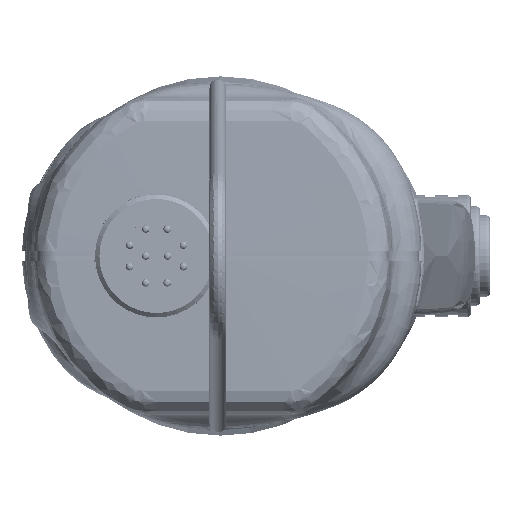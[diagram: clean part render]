
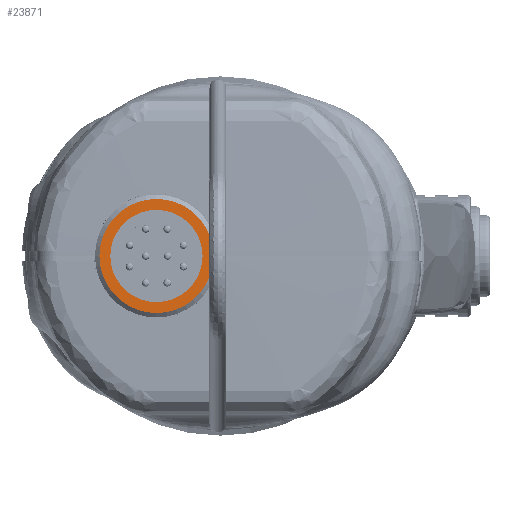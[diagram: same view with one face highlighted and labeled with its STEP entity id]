
A CAD part, front view. The second image highlights one B-rep face of the part: STEP entity #23871.
In plain terms, the highlighted planar face has unit normal (0, -1, 0).
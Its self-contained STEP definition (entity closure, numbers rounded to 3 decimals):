
#10877 = CARTESIAN_POINT ( 'NONE',  ( -37.56, -190.321, 0. ) ) ;
#15359 = CARTESIAN_POINT ( 'NONE',  ( -37.56, -190.321, 6. ) ) ;
#23871 = ADVANCED_FACE ( 'NONE', ( #35819, #203760 ), #76399, .F. ) ;
#35819 = FACE_OUTER_BOUND ( 'NONE', #165677, .T. ) ;
#44060 = DIRECTION ( 'NONE',  ( 0., 1., 0. ) ) ;
#54602 = CARTESIAN_POINT ( 'NONE',  ( -37.56, -190.321, 7.425 ) ) ;
#76399 = PLANE ( 'NONE',  #265717 ) ;
#95434 = ORIENTED_EDGE ( 'NONE', *, *, #172805, .F. ) ;
#112323 = EDGE_LOOP ( 'NONE', ( #215966 ) ) ;
#126618 = DIRECTION ( 'NONE',  ( 0., 0., 1. ) ) ;
#154943 = DIRECTION ( 'NONE',  ( 0., 0., 1. ) ) ;
#163511 = AXIS2_PLACEMENT_3D ( 'NONE', #10877, #202507, #154943 ) ;
#165677 = EDGE_LOOP ( 'NONE', ( #95434 ) ) ;
#172041 = EDGE_CURVE ( 'NONE', #206968, #206968, #208281, .T. ) ;
#172805 = EDGE_CURVE ( 'NONE', #268560, #268560, #239599, .T. ) ;
#177645 = DIRECTION ( 'NONE',  ( 0., 1., 0. ) ) ;
#181691 = AXIS2_PLACEMENT_3D ( 'NONE', #260258, #177645, #201498 ) ;
#189548 = CARTESIAN_POINT ( 'NONE',  ( -37.56, -190.321, -6. ) ) ;
#201498 = DIRECTION ( 'NONE',  ( 0., 0., 1. ) ) ;
#202507 = DIRECTION ( 'NONE',  ( 0., 1., 0. ) ) ;
#203760 = FACE_BOUND ( 'NONE', #112323, .T. ) ;
#206968 = VERTEX_POINT ( 'NONE', #15359 ) ;
#208281 = CIRCLE ( 'NONE', #163511, 6. ) ;
#215966 = ORIENTED_EDGE ( 'NONE', *, *, #172041, .T. ) ;
#239599 = CIRCLE ( 'NONE', #181691, 7.425 ) ;
#260258 = CARTESIAN_POINT ( 'NONE',  ( -37.56, -190.321, 0. ) ) ;
#265717 = AXIS2_PLACEMENT_3D ( 'NONE', #189548, #44060, #126618 ) ;
#268560 = VERTEX_POINT ( 'NONE', #54602 ) ;
